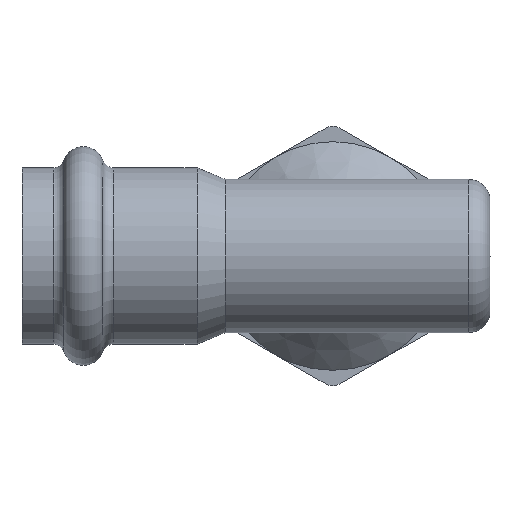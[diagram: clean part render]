
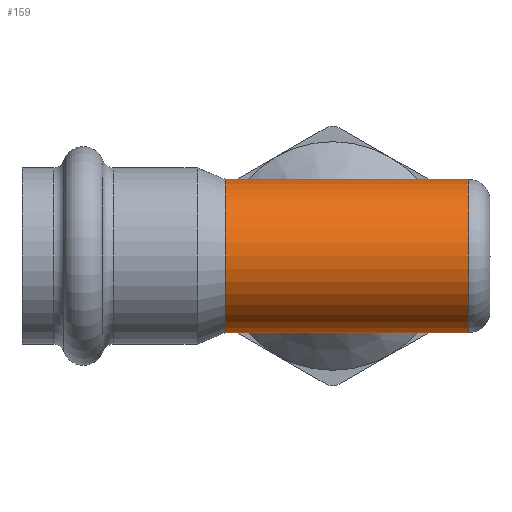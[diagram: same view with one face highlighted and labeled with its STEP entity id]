
A CAD part, front view. The second image highlights one B-rep face of the part: STEP entity #159.
In plain terms, the highlighted cylindrical face has radius 10 mm (diameter 20 mm), a full revolution.
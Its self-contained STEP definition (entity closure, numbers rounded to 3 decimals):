
#154=ELLIPSE('',#762,14.866,10.);
#155=ELLIPSE('',#763,14.866,10.);
#159=ADVANCED_FACE('',(#267,#268,#269),#207,.T.);
#207=CYLINDRICAL_SURFACE('',#764,10.);
#223=CIRCLE('',#760,10.);
#224=CIRCLE('',#761,10.);
#267=FACE_BOUND('',#317,.T.);
#268=FACE_BOUND('',#318,.T.);
#269=FACE_BOUND('',#319,.T.);
#317=EDGE_LOOP('',(#396));
#318=EDGE_LOOP('',(#397));
#319=EDGE_LOOP('',(#398,#399));
#396=ORIENTED_EDGE('',*,*,#617,.T.);
#397=ORIENTED_EDGE('',*,*,#618,.F.);
#398=ORIENTED_EDGE('',*,*,#619,.T.);
#399=ORIENTED_EDGE('',*,*,#620,.T.);
#558=VERTEX_POINT('',#1127);
#559=VERTEX_POINT('',#1129);
#560=VERTEX_POINT('',#1131);
#561=VERTEX_POINT('',#1132);
#617=EDGE_CURVE('',#558,#558,#223,.T.);
#618=EDGE_CURVE('',#559,#559,#224,.T.);
#619=EDGE_CURVE('',#560,#561,#154,.T.);
#620=EDGE_CURVE('',#561,#560,#155,.T.);
#760=AXIS2_PLACEMENT_3D('',#1126,#860,#861);
#761=AXIS2_PLACEMENT_3D('',#1128,#862,#863);
#762=AXIS2_PLACEMENT_3D('',#1130,#864,#865);
#763=AXIS2_PLACEMENT_3D('',#1133,#866,#867);
#764=AXIS2_PLACEMENT_3D('',#1134,#868,#869);
#860=DIRECTION('',(-1.,0.,0.));
#861=DIRECTION('',(0.,-1.,0.));
#862=DIRECTION('',(-1.,0.,0.));
#863=DIRECTION('',(0.,-1.,0.));
#864=DIRECTION('',(-0.673,-0.74,0.));
#865=DIRECTION('',(0.74,-0.673,0.));
#866=DIRECTION('',(0.673,-0.74,0.));
#867=DIRECTION('',(-0.74,-0.673,0.));
#868=DIRECTION('',(-1.,0.,0.));
#869=DIRECTION('',(0.,-1.,0.));
#1126=CARTESIAN_POINT('',(17.7,0.,0.));
#1127=CARTESIAN_POINT('',(17.7,-10.,0.));
#1128=CARTESIAN_POINT('',(-14.036,0.,0.));
#1129=CARTESIAN_POINT('',(-14.036,-10.,0.));
#1130=CARTESIAN_POINT('',(0.,0.,0.));
#1131=CARTESIAN_POINT('',(0.,0.,10.));
#1132=CARTESIAN_POINT('',(0.,0.,-10.));
#1133=CARTESIAN_POINT('',(0.,0.,0.));
#1134=CARTESIAN_POINT('',(-10.,0.,0.));
